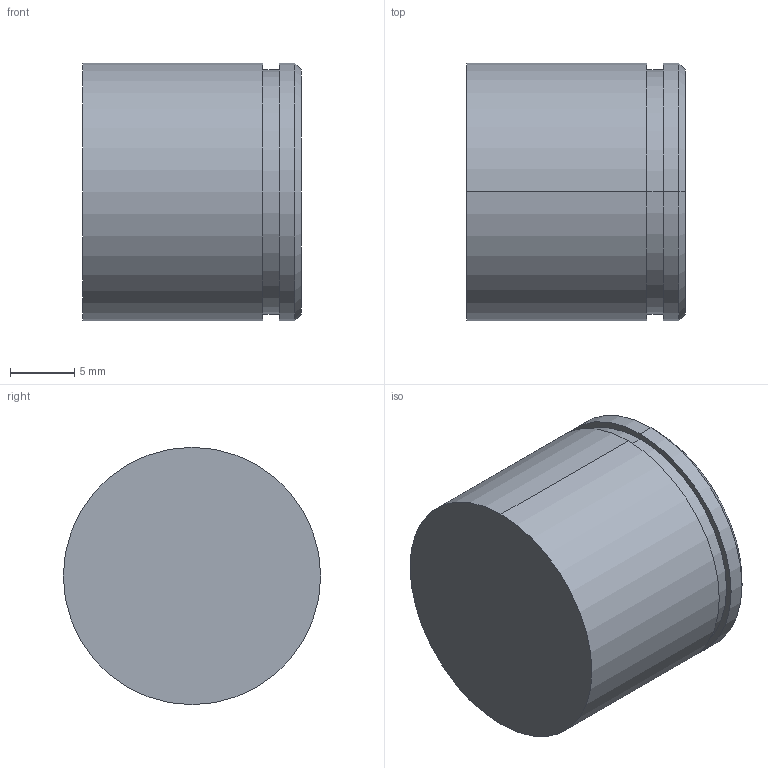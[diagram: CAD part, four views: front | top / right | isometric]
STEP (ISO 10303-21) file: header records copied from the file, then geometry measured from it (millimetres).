
FILE_DESCRIPTION (( 'STEP AP203' ), '1' );
FILE_NAME ('S5-20.STEP', '2002-08-16T10:50:58', ( '.' ), ( '.' ), 'SwSTEP 2.0', 'SolidWorks 2001340', '' );
FILE_SCHEMA (( 'CONFIG_CONTROL_DESIGN' ));
Length unit declared in the file: millimetre
Products named in the file (1): S5-20
Bounding box: 17 x 20 x 20 mm (x, y, z)
Volume: 5293.2 mm3; surface area: 1734.9 mm2
Topology: 1 solids, 1 shells, 12 faces, 22 edges, 14 vertices
Faces by surface type: cylinder 6, plane 4, cone 2
Entity records: 381 total; most frequent: DIRECTION 62, CARTESIAN_POINT 49, ORIENTED_EDGE 44, AXIS2_PLACEMENT_3D 27, EDGE_CURVE 22, EDGE_LOOP 14, CIRCLE 14, VERTEX_POINT 14
